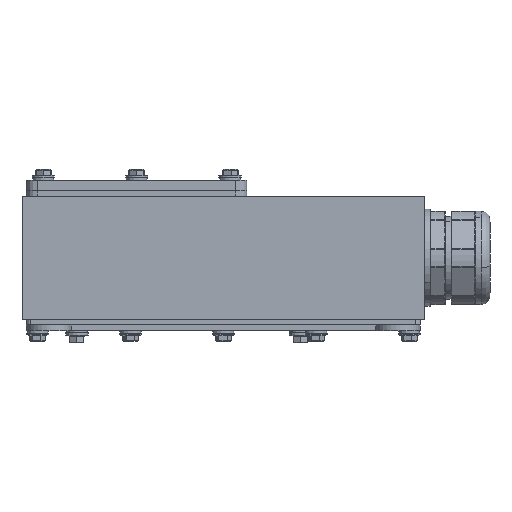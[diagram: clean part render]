
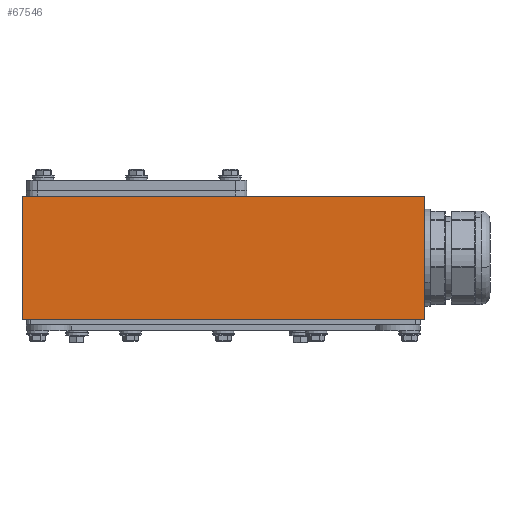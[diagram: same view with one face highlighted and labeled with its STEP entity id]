
A CAD part, left-side view. The second image highlights one B-rep face of the part: STEP entity #67546.
In plain terms, the highlighted planar face has unit normal (-1, 0, 0).
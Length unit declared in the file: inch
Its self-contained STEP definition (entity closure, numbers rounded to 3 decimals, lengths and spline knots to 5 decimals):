
#2338 = VECTOR ( 'NONE', #222889, 39.37008 ) ;
#8606 = VECTOR ( 'NONE', #55011, 39.37008 ) ;
#18290 = VECTOR ( 'NONE', #21884, 39.37008 ) ;
#21884 = DIRECTION ( 'NONE',  ( 0., 0., -1. ) ) ;
#25887 = LINE ( 'NONE', #43153, #2338 ) ;
#37589 = EDGE_CURVE ( 'NONE', #98962, #217948, #94071, .T. ) ;
#41864 = VERTEX_POINT ( 'NONE', #178881 ) ;
#43153 = CARTESIAN_POINT ( 'NONE',  ( -2.75, 4.5, 0. ) ) ;
#49764 = CARTESIAN_POINT ( 'NONE',  ( -2.75, 4.5, 2.75 ) ) ;
#55011 = DIRECTION ( 'NONE',  ( 0., 0., -1. ) ) ;
#60961 = CARTESIAN_POINT ( 'NONE',  ( -2.75, 4.5, 2.75 ) ) ;
#65088 = EDGE_CURVE ( 'NONE', #41864, #217948, #25887, .T. ) ;
#67546 = ADVANCED_FACE ( 'NONE', ( #170959 ), #207841, .F. ) ;
#71166 = LINE ( 'NONE', #139137, #71491 ) ;
#71491 = VECTOR ( 'NONE', #121894, 39.37008 ) ;
#81527 = CARTESIAN_POINT ( 'NONE',  ( -2.75, -4.5, 2.75 ) ) ;
#89320 = ORIENTED_EDGE ( 'NONE', *, *, #65088, .T. ) ;
#94071 = LINE ( 'NONE', #126425, #8606 ) ;
#98962 = VERTEX_POINT ( 'NONE', #81527 ) ;
#106581 = ORIENTED_EDGE ( 'NONE', *, *, #37589, .F. ) ;
#108420 = EDGE_LOOP ( 'NONE', ( #89320, #106581, #125985, #150190 ) ) ;
#108842 = EDGE_CURVE ( 'NONE', #110196, #41864, #198140, .T. ) ;
#110196 = VERTEX_POINT ( 'NONE', #49764 ) ;
#119067 = CARTESIAN_POINT ( 'NONE',  ( -2.75, 4.5, 2.75 ) ) ;
#121894 = DIRECTION ( 'NONE',  ( 0., -1., 0. ) ) ;
#124492 = AXIS2_PLACEMENT_3D ( 'NONE', #119067, #157033, #227398 ) ;
#125985 = ORIENTED_EDGE ( 'NONE', *, *, #157131, .F. ) ;
#126425 = CARTESIAN_POINT ( 'NONE',  ( -2.75, -4.5, 2.75 ) ) ;
#139137 = CARTESIAN_POINT ( 'NONE',  ( -2.75, 4.5, 2.75 ) ) ;
#147507 = CARTESIAN_POINT ( 'NONE',  ( -2.75, -4.5, 0. ) ) ;
#150190 = ORIENTED_EDGE ( 'NONE', *, *, #108842, .T. ) ;
#157033 = DIRECTION ( 'NONE',  ( 1., 0., 0. ) ) ;
#157131 = EDGE_CURVE ( 'NONE', #110196, #98962, #71166, .T. ) ;
#170959 = FACE_OUTER_BOUND ( 'NONE', #108420, .T. ) ;
#178881 = CARTESIAN_POINT ( 'NONE',  ( -2.75, 4.5, 0. ) ) ;
#198140 = LINE ( 'NONE', #60961, #18290 ) ;
#207841 = PLANE ( 'NONE',  #124492 ) ;
#217948 = VERTEX_POINT ( 'NONE', #147507 ) ;
#222889 = DIRECTION ( 'NONE',  ( 0., -1., 0. ) ) ;
#227398 = DIRECTION ( 'NONE',  ( 0., 1., 0. ) ) ;
